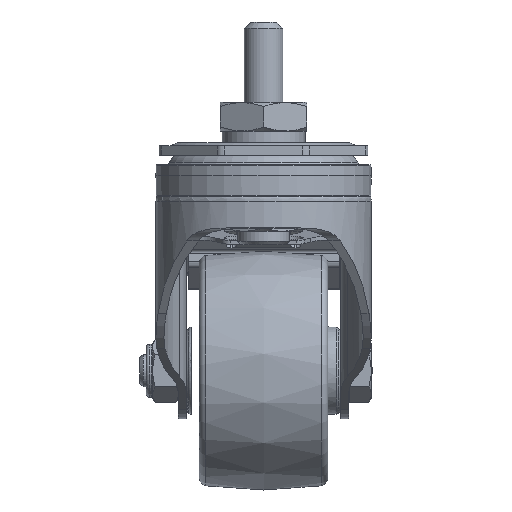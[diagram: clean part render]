
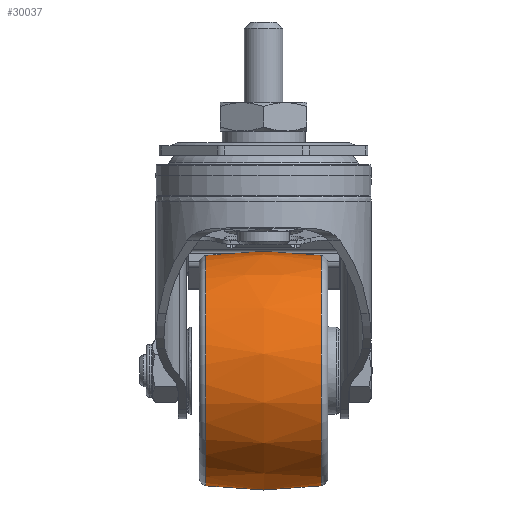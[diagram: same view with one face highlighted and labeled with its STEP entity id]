
A CAD part, left-side view. The second image highlights one B-rep face of the part: STEP entity #30037.
In plain terms, the highlighted free-form (B-spline) face has degree [2, 2] with [3, 9] control points.
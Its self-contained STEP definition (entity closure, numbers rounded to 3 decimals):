
#68=(
BOUNDED_SURFACE()
B_SPLINE_SURFACE(2,2,((#44597,#44598,#44599,#44600,#44601,#44602,#44603,
#44604,#44605),(#44606,#44607,#44608,#44609,#44610,#44611,#44612,#44613,
#44614),(#44615,#44616,#44617,#44618,#44619,#44620,#44621,#44622,#44623)),
 .UNSPECIFIED.,.F.,.T.,.F.)
B_SPLINE_SURFACE_WITH_KNOTS((3,3),(3,2,2,2,3),(-0.18,0.18),
(-3.142,-1.571,0.,1.571,3.142),
 .UNSPECIFIED.)
GEOMETRIC_REPRESENTATION_ITEM()
RATIONAL_B_SPLINE_SURFACE(((1.,0.707,1.,0.707,1.,
0.707,1.,0.707,1.),(0.984,0.696,
0.984,0.696,0.984,0.696,
0.984,0.696,0.984),(1.,0.707,
1.,0.707,1.,0.707,1.,0.707,1.)))
REPRESENTATION_ITEM('')
SURFACE()
);
#3214=FACE_OUTER_BOUND('',#4952,.T.);
#4952=EDGE_LOOP('',(#22225,#22226,#22227,#22228));
#12043=CIRCLE('',#31703,35.876);
#12044=CIRCLE('',#31704,100.);
#12045=CIRCLE('',#31705,35.876);
#13517=VERTEX_POINT('',#44594);
#13518=VERTEX_POINT('',#44624);
#16866=EDGE_CURVE('',#13517,#13517,#12043,.T.);
#16867=EDGE_CURVE('',#13517,#13518,#12044,.T.);
#16868=EDGE_CURVE('',#13518,#13518,#12045,.T.);
#22225=ORIENTED_EDGE('',*,*,#16866,.F.);
#22226=ORIENTED_EDGE('',*,*,#16867,.T.);
#22227=ORIENTED_EDGE('',*,*,#16868,.T.);
#22228=ORIENTED_EDGE('',*,*,#16867,.F.);
#30037=ADVANCED_FACE('',(#3214),#68,.F.);
#31703=AXIS2_PLACEMENT_3D('',#44596,#34819,#34820);
#31704=AXIS2_PLACEMENT_3D('',#44625,#34821,#34822);
#31705=AXIS2_PLACEMENT_3D('',#44626,#34823,#34824);
#34819=DIRECTION('center_axis',(0.,-1.,0.));
#34820=DIRECTION('ref_axis',(0.6,0.,-0.8));
#34821=DIRECTION('center_axis',(-0.8,0.,
-0.6));
#34822=DIRECTION('ref_axis',(-0.6,0.,0.8));
#34823=DIRECTION('center_axis',(0.,-1.,0.));
#34824=DIRECTION('ref_axis',(0.6,0.,-0.8));
#44594=CARTESIAN_POINT('',(18.457,-17.949,-42.612));
#44596=CARTESIAN_POINT('Origin',(40.,-17.949,-71.3));
#44597=CARTESIAN_POINT('Ctrl Pts',(18.457,17.949,-42.612));
#44598=CARTESIAN_POINT('Ctrl Pts',(-10.231,17.949,-64.156));
#44599=CARTESIAN_POINT('Ctrl Pts',(11.312,17.949,-92.843));
#44600=CARTESIAN_POINT('Ctrl Pts',(32.856,17.949,-121.531));
#44601=CARTESIAN_POINT('Ctrl Pts',(61.543,17.949,-99.988));
#44602=CARTESIAN_POINT('Ctrl Pts',(90.231,17.949,-78.444));
#44603=CARTESIAN_POINT('Ctrl Pts',(68.688,17.949,-49.757));
#44604=CARTESIAN_POINT('Ctrl Pts',(47.144,17.949,-21.069));
#44605=CARTESIAN_POINT('Ctrl Pts',(18.457,17.949,-42.612));
#44606=CARTESIAN_POINT('Ctrl Pts',(16.49,0.,
-39.994));
#44607=CARTESIAN_POINT('Ctrl Pts',(-14.816,0.,
-63.504));
#44608=CARTESIAN_POINT('Ctrl Pts',(8.694,0.,
-94.81));
#44609=CARTESIAN_POINT('Ctrl Pts',(32.204,0.,
-126.116));
#44610=CARTESIAN_POINT('Ctrl Pts',(63.51,0.,
-102.606));
#44611=CARTESIAN_POINT('Ctrl Pts',(94.816,0.,
-79.096));
#44612=CARTESIAN_POINT('Ctrl Pts',(71.306,0.,
-47.79));
#44613=CARTESIAN_POINT('Ctrl Pts',(47.796,0.,
-16.484));
#44614=CARTESIAN_POINT('Ctrl Pts',(16.49,0.,
-39.994));
#44615=CARTESIAN_POINT('Ctrl Pts',(18.457,-17.949,-42.612));
#44616=CARTESIAN_POINT('Ctrl Pts',(-10.231,-17.949,
-64.156));
#44617=CARTESIAN_POINT('Ctrl Pts',(11.312,-17.949,-92.843));
#44618=CARTESIAN_POINT('Ctrl Pts',(32.856,-17.949,-121.531));
#44619=CARTESIAN_POINT('Ctrl Pts',(61.543,-17.949,-99.988));
#44620=CARTESIAN_POINT('Ctrl Pts',(90.231,-17.949,-78.444));
#44621=CARTESIAN_POINT('Ctrl Pts',(68.688,-17.949,-49.757));
#44622=CARTESIAN_POINT('Ctrl Pts',(47.144,-17.949,-21.069));
#44623=CARTESIAN_POINT('Ctrl Pts',(18.457,-17.949,-42.612));
#44624=CARTESIAN_POINT('',(18.457,17.949,-42.612));
#44625=CARTESIAN_POINT('Origin',(77.531,0.,-121.277));
#44626=CARTESIAN_POINT('Origin',(40.,17.949,-71.3));
